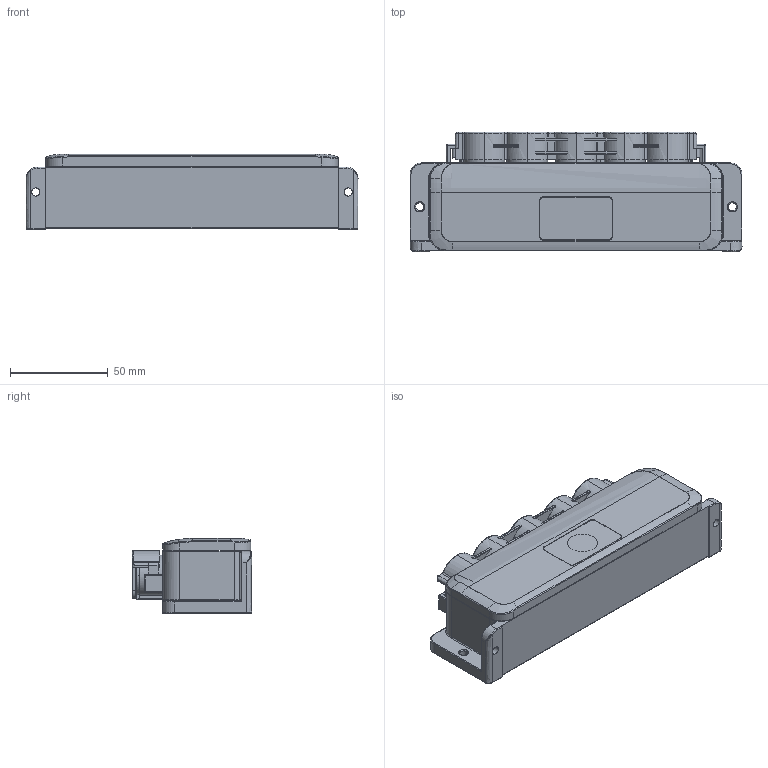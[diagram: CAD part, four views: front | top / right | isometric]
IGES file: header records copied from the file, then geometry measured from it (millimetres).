
Start section: SolidWorks IGES file using analytic representation for surfaces
Global section: file name: C:\Users\USER\Desktop\JB-R.IGS; native system: SolidWorks 2020; preprocessor: SolidWorks 2020; author: USER; date: 220401.104503; units: millimetre
Bounding box: 170 x 61.2 x 38.5 mm (x, y, z)
Surface area: 46913.5 mm2 (no closed solid volume)
Topology: 0 solids, 0 shells, 539 faces, 4998 edges, 4989 vertices
Faces by surface type: bspline 301, revolution 238
